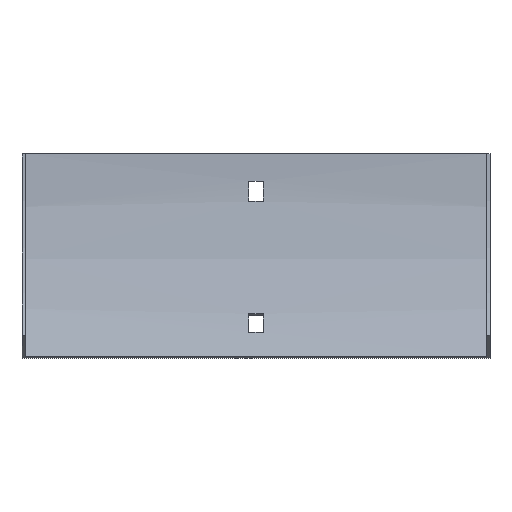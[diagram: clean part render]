
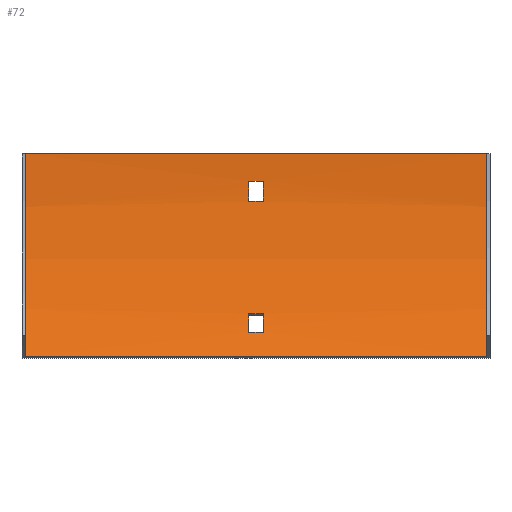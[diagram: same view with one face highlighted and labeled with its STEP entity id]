
A CAD part, front view. The second image highlights one B-rep face of the part: STEP entity #72.
In plain terms, the highlighted cylindrical face has radius 179 mm (diameter 358 mm), a partial arc.
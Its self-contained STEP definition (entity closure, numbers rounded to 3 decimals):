
#4 = EDGE_LOOP ( 'NONE', ( #456, #292, #123, #25 ) ) ;
#8 = CARTESIAN_POINT ( 'NONE',  ( 3.25, -1.903, -12. ) ) ;
#11 = VECTOR ( 'NONE', #176, 1000. ) ;
#14 = CARTESIAN_POINT ( 'NONE',  ( 3.25, -2.736, -21. ) ) ;
#25 = ORIENTED_EDGE ( 'NONE', *, *, #301, .T. ) ;
#32 = VERTEX_POINT ( 'NONE', #14 ) ;
#48 = CARTESIAN_POINT ( 'NONE',  ( 102., -25.481, -89.5 ) ) ;
#52 = LINE ( 'NONE', #48, #96 ) ;
#56 = ORIENTED_EDGE ( 'NONE', *, *, #139, .T. ) ;
#62 = FACE_BOUND ( 'NONE', #434, .T. ) ;
#64 = CARTESIAN_POINT ( 'NONE',  ( -102., -180.5, 0. ) ) ;
#72 = ADVANCED_FACE ( 'NONE', ( #62, #393, #159 ), #488, .F. ) ;
#79 = DIRECTION ( 'NONE',  ( 1., 0., 0. ) ) ;
#83 = VERTEX_POINT ( 'NONE', #526 ) ;
#84 = CARTESIAN_POINT ( 'NONE',  ( 103.5, -1.903, -12. ) ) ;
#96 = VECTOR ( 'NONE', #184, 1000. ) ;
#104 = ORIENTED_EDGE ( 'NONE', *, *, #490, .F. ) ;
#107 = CIRCLE ( 'NONE', #571, 179. ) ;
#114 = AXIS2_PLACEMENT_3D ( 'NONE', #373, #509, #601 ) ;
#117 = EDGE_CURVE ( 'NONE', #405, #495, #196, .T. ) ;
#123 = ORIENTED_EDGE ( 'NONE', *, *, #418, .T. ) ;
#124 = EDGE_CURVE ( 'NONE', #140, #206, #299, .T. ) ;
#126 = CARTESIAN_POINT ( 'NONE',  ( -102., -25.481, -89.5 ) ) ;
#139 = EDGE_CURVE ( 'NONE', #206, #280, #547, .T. ) ;
#140 = VERTEX_POINT ( 'NONE', #316 ) ;
#144 = CARTESIAN_POINT ( 'NONE',  ( 3.25, -19.83, -78.906 ) ) ;
#152 = VECTOR ( 'NONE', #254, 1000. ) ;
#154 = VERTEX_POINT ( 'NONE', #229 ) ;
#157 = CARTESIAN_POINT ( 'NONE',  ( 103.5, -180.5, 0. ) ) ;
#159 = FACE_BOUND ( 'NONE', #518, .T. ) ;
#170 = DIRECTION ( 'NONE',  ( 0., 0., 1. ) ) ;
#173 = AXIS2_PLACEMENT_3D ( 'NONE', #339, #594, #539 ) ;
#174 = LINE ( 'NONE', #323, #228 ) ;
#176 = DIRECTION ( 'NONE',  ( -1., 0., 0. ) ) ;
#180 = CARTESIAN_POINT ( 'NONE',  ( 102., -1.5, 0. ) ) ;
#184 = DIRECTION ( 'NONE',  ( -1., 0., 0. ) ) ;
#196 = CIRCLE ( 'NONE', #538, 179. ) ;
#201 = EDGE_CURVE ( 'NONE', #32, #384, #285, .T. ) ;
#206 = VERTEX_POINT ( 'NONE', #351 ) ;
#209 = ORIENTED_EDGE ( 'NONE', *, *, #201, .F. ) ;
#227 = DIRECTION ( 'NONE',  ( -1., 0., 0. ) ) ;
#228 = VECTOR ( 'NONE', #369, 1000. ) ;
#229 = CARTESIAN_POINT ( 'NONE',  ( -3.25, -1.903, -12. ) ) ;
#240 = VECTOR ( 'NONE', #245, 1000. ) ;
#242 = CARTESIAN_POINT ( 'NONE',  ( -3.25, -180.5, 0. ) ) ;
#245 = DIRECTION ( 'NONE',  ( -1., 0., 0. ) ) ;
#251 = EDGE_CURVE ( 'NONE', #266, #32, #174, .T. ) ;
#254 = DIRECTION ( 'NONE',  ( 1., 0., 0. ) ) ;
#260 = DIRECTION ( 'NONE',  ( -1., 0., 0. ) ) ;
#266 = VERTEX_POINT ( 'NONE', #510 ) ;
#280 = VERTEX_POINT ( 'NONE', #144 ) ;
#285 = CIRCLE ( 'NONE', #337, 179. ) ;
#287 = DIRECTION ( 'NONE',  ( 0., 0., 1. ) ) ;
#292 = ORIENTED_EDGE ( 'NONE', *, *, #310, .F. ) ;
#293 = DIRECTION ( 'NONE',  ( 1., 0., 0. ) ) ;
#299 = LINE ( 'NONE', #531, #152 ) ;
#301 = EDGE_CURVE ( 'NONE', #502, #495, #328, .T. ) ;
#305 = VECTOR ( 'NONE', #318, 1000. ) ;
#310 = EDGE_CURVE ( 'NONE', #525, #405, #52, .T. ) ;
#312 = CARTESIAN_POINT ( 'NONE',  ( 102., -180.5, 0. ) ) ;
#316 = CARTESIAN_POINT ( 'NONE',  ( -3.25, -16.052, -70.695 ) ) ;
#318 = DIRECTION ( 'NONE',  ( -1., 0., 0. ) ) ;
#323 = CARTESIAN_POINT ( 'NONE',  ( 103.5, -2.736, -21. ) ) ;
#328 = LINE ( 'NONE', #507, #240 ) ;
#337 = AXIS2_PLACEMENT_3D ( 'NONE', #591, #79, #445 ) ;
#339 = CARTESIAN_POINT ( 'NONE',  ( 3.25, -180.5, 0. ) ) ;
#350 = CIRCLE ( 'NONE', #577, 179. ) ;
#351 = CARTESIAN_POINT ( 'NONE',  ( 3.25, -16.052, -70.695 ) ) ;
#364 = LINE ( 'NONE', #84, #11 ) ;
#369 = DIRECTION ( 'NONE',  ( 1., 0., 0. ) ) ;
#373 = CARTESIAN_POINT ( 'NONE',  ( -3.25, -180.5, 0. ) ) ;
#384 = VERTEX_POINT ( 'NONE', #8 ) ;
#392 = AXIS2_PLACEMENT_3D ( 'NONE', #157, #260, #442 ) ;
#393 = FACE_OUTER_BOUND ( 'NONE', #4, .T. ) ;
#403 = LINE ( 'NONE', #590, #305 ) ;
#405 = VERTEX_POINT ( 'NONE', #126 ) ;
#418 = EDGE_CURVE ( 'NONE', #525, #502, #107, .T. ) ;
#423 = EDGE_CURVE ( 'NONE', #280, #83, #403, .T. ) ;
#434 = EDGE_LOOP ( 'NONE', ( #104, #589, #209, #532 ) ) ;
#437 = DIRECTION ( 'NONE',  ( 0., 0., 1. ) ) ;
#442 = DIRECTION ( 'NONE',  ( 0., 0., 1. ) ) ;
#445 = DIRECTION ( 'NONE',  ( 0., 0., -1. ) ) ;
#454 = DIRECTION ( 'NONE',  ( 1., 0., 0. ) ) ;
#456 = ORIENTED_EDGE ( 'NONE', *, *, #117, .F. ) ;
#471 = EDGE_CURVE ( 'NONE', #384, #154, #364, .T. ) ;
#488 = CYLINDRICAL_SURFACE ( 'NONE', #392, 179. ) ;
#490 = EDGE_CURVE ( 'NONE', #154, #266, #350, .T. ) ;
#495 = VERTEX_POINT ( 'NONE', #553 ) ;
#502 = VERTEX_POINT ( 'NONE', #180 ) ;
#505 = ORIENTED_EDGE ( 'NONE', *, *, #423, .T. ) ;
#507 = CARTESIAN_POINT ( 'NONE',  ( 102., -1.5, 0. ) ) ;
#509 = DIRECTION ( 'NONE',  ( 1., 0., 0. ) ) ;
#510 = CARTESIAN_POINT ( 'NONE',  ( -3.25, -2.736, -21. ) ) ;
#518 = EDGE_LOOP ( 'NONE', ( #505, #546, #563, #56 ) ) ;
#525 = VERTEX_POINT ( 'NONE', #551 ) ;
#526 = CARTESIAN_POINT ( 'NONE',  ( -3.25, -19.83, -78.906 ) ) ;
#528 = CIRCLE ( 'NONE', #114, 179. ) ;
#531 = CARTESIAN_POINT ( 'NONE',  ( 103.5, -16.052, -70.695 ) ) ;
#532 = ORIENTED_EDGE ( 'NONE', *, *, #251, .F. ) ;
#538 = AXIS2_PLACEMENT_3D ( 'NONE', #64, #293, #437 ) ;
#539 = DIRECTION ( 'NONE',  ( 0., 0., 1. ) ) ;
#542 = EDGE_CURVE ( 'NONE', #83, #140, #528, .T. ) ;
#546 = ORIENTED_EDGE ( 'NONE', *, *, #542, .T. ) ;
#547 = CIRCLE ( 'NONE', #173, 179. ) ;
#551 = CARTESIAN_POINT ( 'NONE',  ( 102., -25.481, -89.5 ) ) ;
#553 = CARTESIAN_POINT ( 'NONE',  ( -102., -1.5, 0. ) ) ;
#563 = ORIENTED_EDGE ( 'NONE', *, *, #124, .T. ) ;
#571 = AXIS2_PLACEMENT_3D ( 'NONE', #312, #454, #170 ) ;
#577 = AXIS2_PLACEMENT_3D ( 'NONE', #242, #227, #287 ) ;
#589 = ORIENTED_EDGE ( 'NONE', *, *, #471, .F. ) ;
#590 = CARTESIAN_POINT ( 'NONE',  ( 103.5, -19.83, -78.906 ) ) ;
#591 = CARTESIAN_POINT ( 'NONE',  ( 3.25, -180.5, 0. ) ) ;
#594 = DIRECTION ( 'NONE',  ( -1., 0., 0. ) ) ;
#601 = DIRECTION ( 'NONE',  ( 0., 0., -1. ) ) ;
